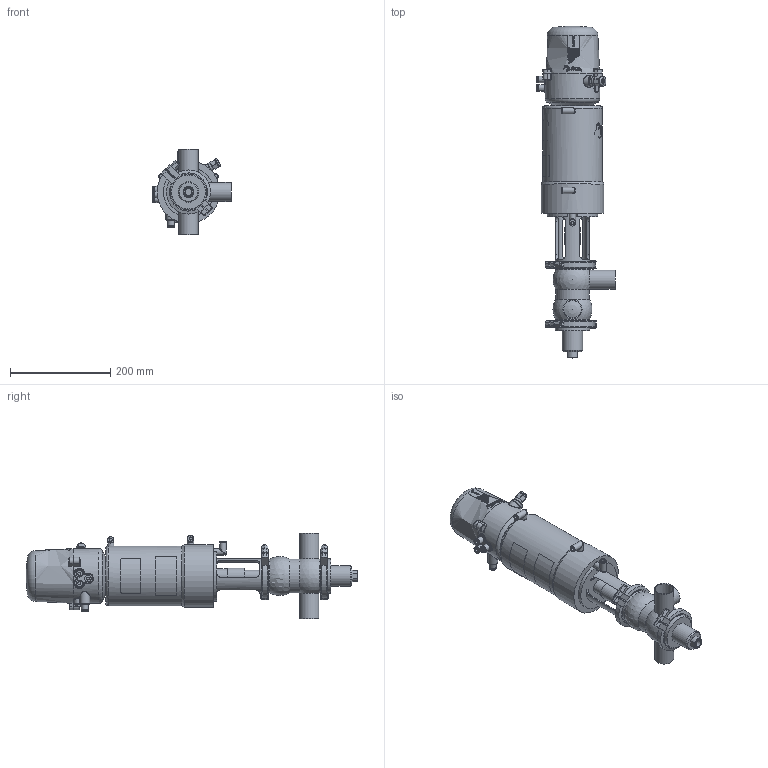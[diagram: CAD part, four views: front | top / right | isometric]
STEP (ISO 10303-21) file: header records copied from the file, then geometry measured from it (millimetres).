
FILE_DESCRIPTION (( 'STEP AP214' ), '1' );
FILE_NAME ('INNOVA P BB-90 W OD 1½ & C-TOP S_10.250.16.0013.STEP', '2024-08-09T11:57:55', ( '' ), ( '' ), 'SwSTEP 2.0', 'SolidWorks 2023', '' );
FILE_SCHEMA (( 'AUTOMOTIVE_DESIGN' ));
Length unit declared in the file: millimetre
Products named in the file (7): 10.250.15.0001_OD 1½"; INNOVA P BB-90 W OD 1½ & C-TOP S_10.250.16.0013; 10.250.15.0003_DN 1½"; 10.250.15.0002_Type P T1; 10.251.15.0005_OD 1½"; 10.426.15.0001_C-TOP S - 3 EV; 10.240.15.0001_DN 040
Assembly tree (7 placements, depth 2):
  INNOVA P BB-90 W OD 1½ & C-TOP S_10.250.16.0013
    10.250.15.0001_OD 1½"
    10.250.15.0002_Type P T1
    10.426.15.0001_C-TOP S - 3 EV
    10.251.15.0005_OD 1½"
    10.240.15.0001_DN 040  x2
    10.250.15.0003_DN 1½"
Bounding box: 156 x 661.7 x 170 mm (x, y, z)
Volume: 4746144 mm3; surface area: 365323.9 mm2
Topology: 7 solids, 7 shells, 1208 faces, 2908 edges, 1931 vertices
Faces by surface type: plane 414, cylinder 385, cone 204, bspline 163, torus 33, sphere 9
Full cylindrical faces by diameter (mm): 0.371 x17, 0.512 x16, 0.658 x16, 0.795 x16, 0.94 x15, 1.098 x15, 1.241 x13, 1.382 x13, 1.523 x11, 1.669 x10, 2.201 x1, 4.2 x2, 5 x1, 5.5 x2, 6 x4, 6.15 x3, 8 x5, 10 x1, 10.5 x3, 11 x4, 12.5 x9, 13 x6, 13.5 x2, 14 x1, 17 x3, 20 x2, 22 x2, 23 x1, 28 x1, 31.5 x1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
Entity records: 59127 total; most frequent: CARTESIAN_POINT 27681, ORIENTED_EDGE 4618, DIRECTION 3769, EDGE_CURVE 2309, VERTEX_POINT 1646, EDGE_LOOP 1631, AXIS2_PLACEMENT_3D 1551, FACE_OUTER_BOUND 1377
